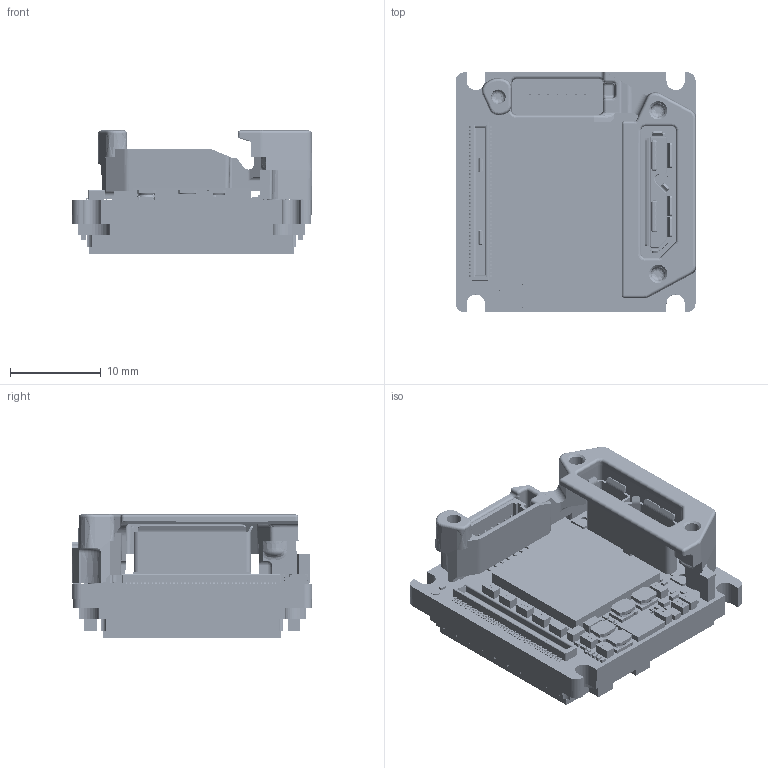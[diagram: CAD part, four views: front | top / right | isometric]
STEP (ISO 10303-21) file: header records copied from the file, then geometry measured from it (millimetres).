
FILE_DESCRIPTION (( 'STEP AP214' ), '1' );
FILE_NAME ('Alvium-USB180-Bare-Board-IMX23x20.STEP', '2022-12-21T14:24:31', ( '' ), ( '' ), 'SwSTEP 2.0', 'SolidWorks 2021', '' );
FILE_SCHEMA (( 'AUTOMOTIVE_DESIGN' ));
Length unit declared in the file: millimetre
Products named in the file (1): Alvium-USB180-Bare-Board-IMX23x20
Bounding box: 26.48 x 26.45 x 13.54 mm (x, y, z)
Volume: 4412.7 mm3; surface area: 6920.6 mm2
Topology: 168 solids, 168 shells, 10082 faces, 25422 edges, 16625 vertices
Faces by surface type: plane 5118, bspline 3686, cylinder 1174, cone 46, torus 40, sphere 18
Entity records: 620525 total; most frequent: CARTESIAN_POINT 289774, ORIENTED_EDGE 50826, DIRECTION 33113, EDGE_CURVE 25413, VERTEX_POINT 16625, VECTOR 15457, LINE 15457, EDGE_LOOP 11056
